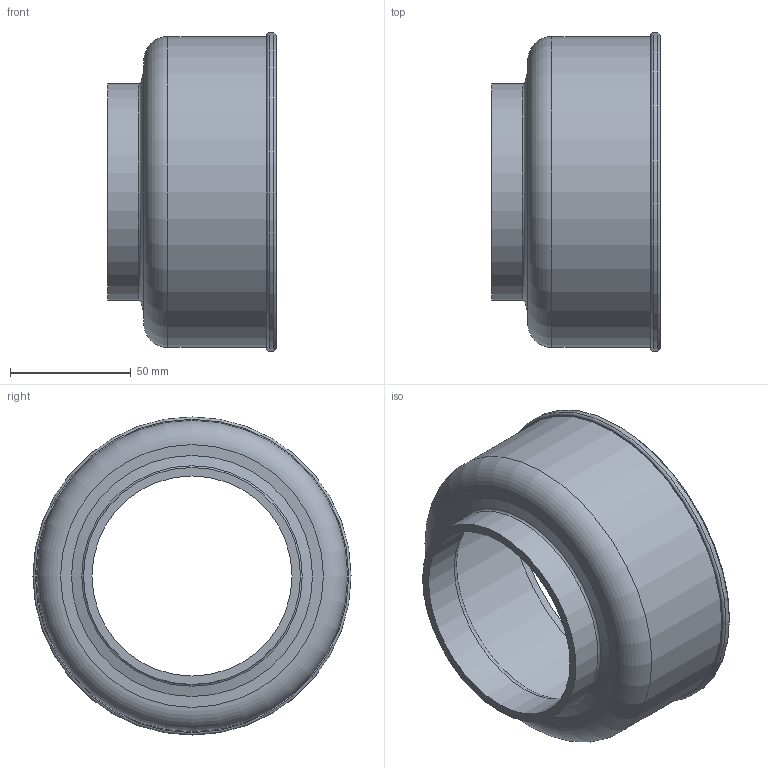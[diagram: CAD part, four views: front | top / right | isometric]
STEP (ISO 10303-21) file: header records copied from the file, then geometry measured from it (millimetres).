
FILE_DESCRIPTION(/* description */ (''),/* implementation_level */ '2;1');
FILE_NAME(/* name */ 'Z:\Geberit\Export\NewStep\366898.stp',/* time_stamp */ '2014-04-02T07:55:07+02:00',/* author */ ('nelson'),/* organization */ (''),/* preprocessor_version */ 'ST-DEVELOPER v15.2',/* originating_system */ 'Autodesk Inventor 2014',/* authorisation */ '');
FILE_SCHEMA (('AUTOMOTIVE_DESIGN { 1 0 10303 214 3 1 1 }'));
Length unit declared in the file: millimetre
Products named in the file (1): 366898
Bounding box: 70 x 132 x 132 mm (x, y, z)
Volume: 132480.6 mm3; surface area: 62608.9 mm2
Topology: 1 solids, 1 shells, 19 faces, 33 edges, 19 vertices
Faces by surface type: torus 5, plane 5, cylinder 5, cone 4
Full cylindrical faces by diameter (mm): 83 x1, 90 x1, 120 x1, 129 x1, 132 x1
Entity records: 409 total; most frequent: DIRECTION 78, CARTESIAN_POINT 58, AXIS2_PLACEMENT_3D 39, EDGE_LOOP 38, ORIENTED_EDGE 38, FACE_BOUND 21, CIRCLE 19, VERTEX_POINT 19
